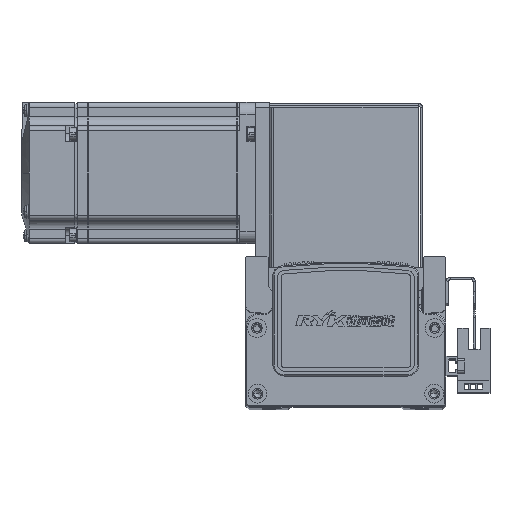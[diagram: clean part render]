
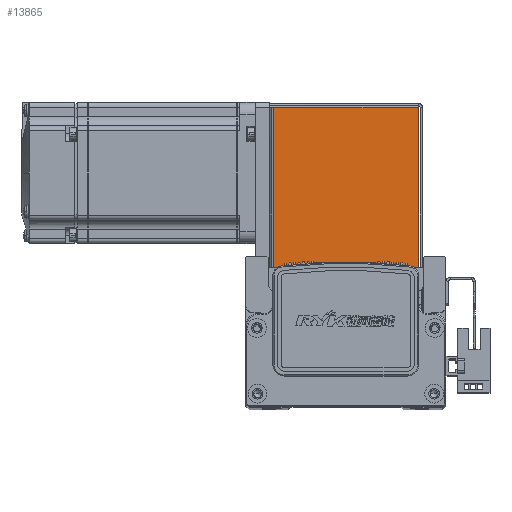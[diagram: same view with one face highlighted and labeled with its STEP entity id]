
A CAD part, top view. The second image highlights one B-rep face of the part: STEP entity #13865.
In plain terms, the highlighted planar face has unit normal (0, 0, 1).
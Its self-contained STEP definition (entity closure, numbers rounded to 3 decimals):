
#9127 = VERTEX_POINT ( 'NONE', #21557 ) ;
#9161 = VERTEX_POINT ( 'NONE', #21571 ) ;
#9175 = VERTEX_POINT ( 'NONE', #21639 ) ;
#9181 = VERTEX_POINT ( 'NONE', #21595 ) ;
#11174 = DIRECTION ( 'NONE',  ( -1., 0., 0. ) ) ;
#11177 = DIRECTION ( 'NONE',  ( 0., 1., 0. ) ) ;
#11194 = CARTESIAN_POINT ( 'NONE',  ( 0., 68.5, 35. ) ) ;
#11201 = CARTESIAN_POINT ( 'NONE',  ( 30.763, 0.737, 35. ) ) ;
#12000 = DIRECTION ( 'NONE',  ( 0., 1., 0. ) ) ;
#12019 = CARTESIAN_POINT ( 'NONE',  ( -30.793, 0., 35. ) ) ;
#12046 = CARTESIAN_POINT ( 'NONE',  ( -32.5, 0.737, 35. ) ) ;
#12047 = DIRECTION ( 'NONE',  ( -1., 0., 0. ) ) ;
#12196 = LINE ( 'NONE', #11194, #12241 ) ;
#12214 = LINE ( 'NONE', #11201, #12243 ) ;
#12241 = VECTOR ( 'NONE', #11174, 1000. ) ;
#12243 = VECTOR ( 'NONE', #11177, 1000. ) ;
#12712 = LINE ( 'NONE', #12019, #12713 ) ;
#12713 = VECTOR ( 'NONE', #12000, 1000. ) ;
#12747 = LINE ( 'NONE', #12046, #12759 ) ;
#12759 = VECTOR ( 'NONE', #12047, 1000. ) ;
#13865 = ADVANCED_FACE ( 'NONE', ( #40974 ), #38059, .F. ) ;
#19806 = ORIENTED_EDGE ( 'NONE', *, *, #36350, .F. ) ;
#19865 = ORIENTED_EDGE ( 'NONE', *, *, #36416, .T. ) ;
#19896 = ORIENTED_EDGE ( 'NONE', *, *, #36315, .F. ) ;
#19899 = ORIENTED_EDGE ( 'NONE', *, *, #36453, .T. ) ;
#21557 = CARTESIAN_POINT ( 'NONE',  ( -30.793, 68.5, 35. ) ) ;
#21571 = CARTESIAN_POINT ( 'NONE',  ( -30.793, 0.737, 35. ) ) ;
#21595 = CARTESIAN_POINT ( 'NONE',  ( 30.763, 68.5, 35. ) ) ;
#21639 = CARTESIAN_POINT ( 'NONE',  ( 30.763, 0.737, 35. ) ) ;
#27422 = AXIS2_PLACEMENT_3D ( 'NONE', #38077, #38073, #38044 ) ;
#36315 = EDGE_CURVE ( 'NONE', #9161, #9127, #12712, .T. ) ;
#36350 = EDGE_CURVE ( 'NONE', #9175, #9161, #12747, .T. ) ;
#36416 = EDGE_CURVE ( 'NONE', #9175, #9181, #12214, .T. ) ;
#36453 = EDGE_CURVE ( 'NONE', #9181, #9127, #12196, .T. ) ;
#38044 = DIRECTION ( 'NONE',  ( -1., 0., 0. ) ) ;
#38059 = PLANE ( 'NONE',  #27422 ) ;
#38073 = DIRECTION ( 'NONE',  ( 0., 0., -1. ) ) ;
#38077 = CARTESIAN_POINT ( 'NONE',  ( 0., 0., 35. ) ) ;
#40974 = FACE_OUTER_BOUND ( 'NONE', #61823, .T. ) ;
#61823 = EDGE_LOOP ( 'NONE', ( #19865, #19899, #19896, #19806 ) ) ;
